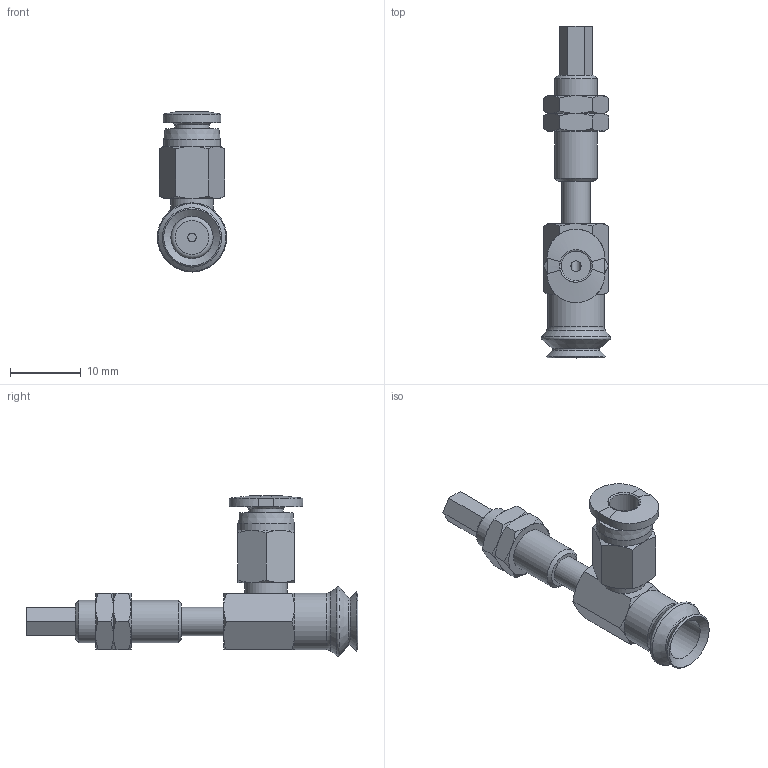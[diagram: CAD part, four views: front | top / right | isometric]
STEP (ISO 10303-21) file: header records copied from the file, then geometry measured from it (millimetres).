
FILE_DESCRIPTION(('STEP AP203'),'1');
FILE_NAME('-O.stp','2025-04-24T00:30:32',(' '),(' '),'Spatial InterOp 3D',' ',' ');
FILE_SCHEMA(('CONFIG_CONTROL_DESIGN'));
Length unit declared in the file: millimetre
Products named in the file (7): BNABPJYS-8-6-※-O; CONNECTOR_S-8-6; NUT-NAPJ-8-6-s; NAPJTS-8-6-FBODY; NAPJTS-8-6-MBODY; BPJG-8-※; PC-C_04-M3
Assembly tree (7 placements, depth 2):
  BNABPJYS-8-6-※-O
    CONNECTOR_S-8-6
    NUT-NAPJ-8-6-s  x2
    NAPJTS-8-6-FBODY
    NAPJTS-8-6-MBODY
    BPJG-8-※
    PC-C_04-M3
Bounding box: 9.8 x 47 x 22.67 mm (x, y, z)
Volume: 1567.6 mm3; surface area: 3132.9 mm2
Topology: 6 solids, 8 shells, 180 faces, 376 edges, 224 vertices
Faces by surface type: plane 72, cone 69, cylinder 23, torus 9, bspline 4, revolution 3
Full cylindrical faces by diameter (mm): 1.2 x1, 2.459 x2, 2.5 x2, 3 x2, 4 x4, 4.9 x1, 5.188 x2, 6 x4, 6.1 x1, 8 x2
Entity records: 4592 total; most frequent: CARTESIAN_POINT 1241, DIRECTION 625, ORIENTED_EDGE 542, AXIS2_PLACEMENT_3D 274, EDGE_CURVE 272, EDGE_LOOP 228, VERTEX_POINT 188, FACE_OUTER_BOUND 126
